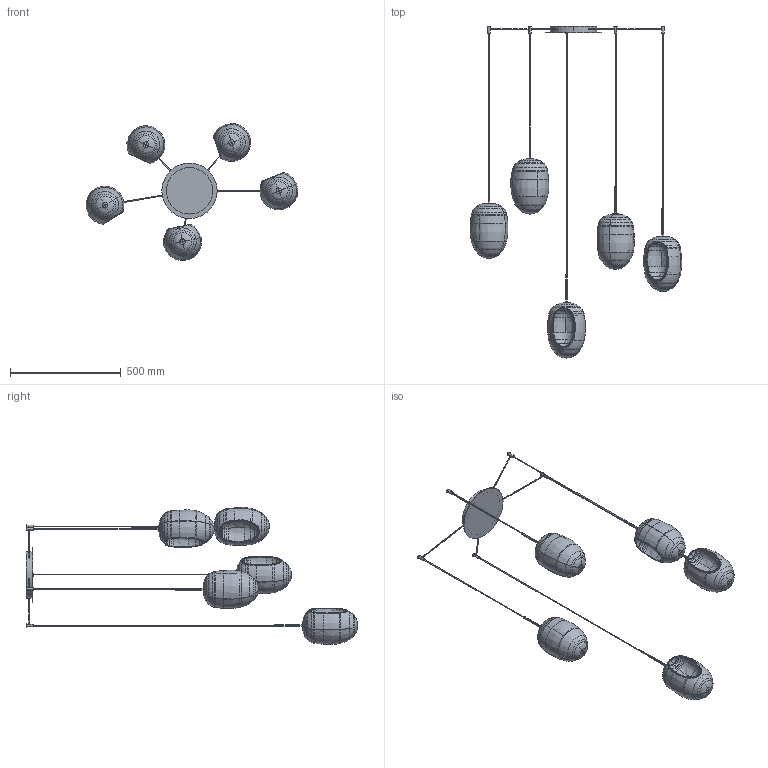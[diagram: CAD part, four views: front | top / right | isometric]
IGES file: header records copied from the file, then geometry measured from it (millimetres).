
Start section: SolidWorks IGES file using analytic representation for surfaces
Global section: file name: Y:\eforma\TECNICO\SOLIDWORKS\E-FORMA\09-LAMPADE\FOS\02 parts\FOS05_5 sospensione.IGS; native system: SolidWorks 2022; preprocessor: SolidWorks 2022; author: eforma.tech; date: 250519.091229; units: millimetre
Bounding box: 958.44 x 1500.54 x 621 mm (x, y, z)
Volume: 3093427.3 mm3; surface area: 1747862.4 mm2
Topology: 51 solids, 51 shells, 1161 faces, 2776 edges, 1708 vertices
Faces by surface type: revolution 749, plane 302, bspline 110
